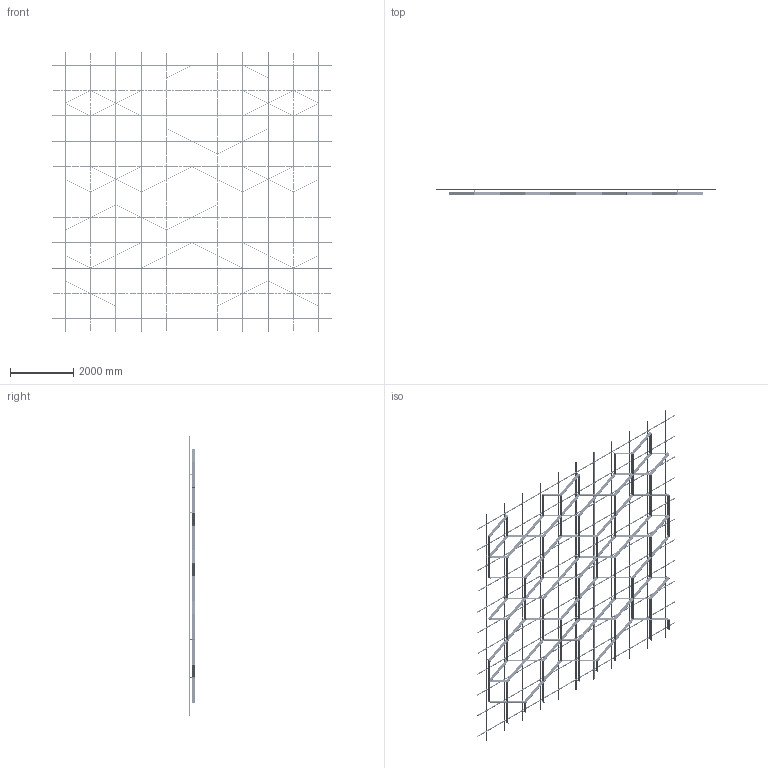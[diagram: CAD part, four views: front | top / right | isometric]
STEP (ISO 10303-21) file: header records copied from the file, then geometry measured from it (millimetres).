
FILE_DESCRIPTION (( 'STEP AP203' ), '1' );
FILE_NAME ('28 ìèäè ñ ïñ.step', '2025-11-26T11:55:40', ( '' ), ( '' ), 'SwSTEP 2.0', 'SolidWorks 2020', '' );
FILE_SCHEMA (( 'CONFIG_CONTROL_DESIGN' ));
Products named in the file (5): Ñèñòåìà â çîíå 8000õ8000; SS.SEMA.2400 - Ñèìà-ïðîôèëü; 28 ìèäè ñ ïñ; SS.SEMA.2400 - Ñèìà-ïðîôèëü — îáðåçàí 1600; 謶鎷ar28
Assembly tree (90 placements, depth 3):
  28 ìèäè ñ ïñ
    Ñèñòåìà â çîíå 8000õ8000
      SS.SEMA.2400 - Ñèìà-ïðîôèëü  x66
      SS.SEMA.2400 - Ñèìà-ïðîôèëü — îáðåçàí 1600  x22
    謶鎷ar28
Bounding box: 8800 x 205 x 8800 mm (x, y, z)
Volume: 119719457.6 mm3; surface area: 55586296.6 mm2
Topology: 627 solids, 627 shells, 18958 faces, 51704 edges, 34000 vertices
Faces by surface type: cylinder 12634, plane 6324
Entity records: 71693 total; most frequent: CARTESIAN_POINT 16436, DIRECTION 10374, ORIENTED_EDGE 10256, EDGE_CURVE 5128, AXIS2_PLACEMENT_3D 4938, VERTEX_POINT 3408, EDGE_LOOP 2964, ADVANCED_FACE 2802
